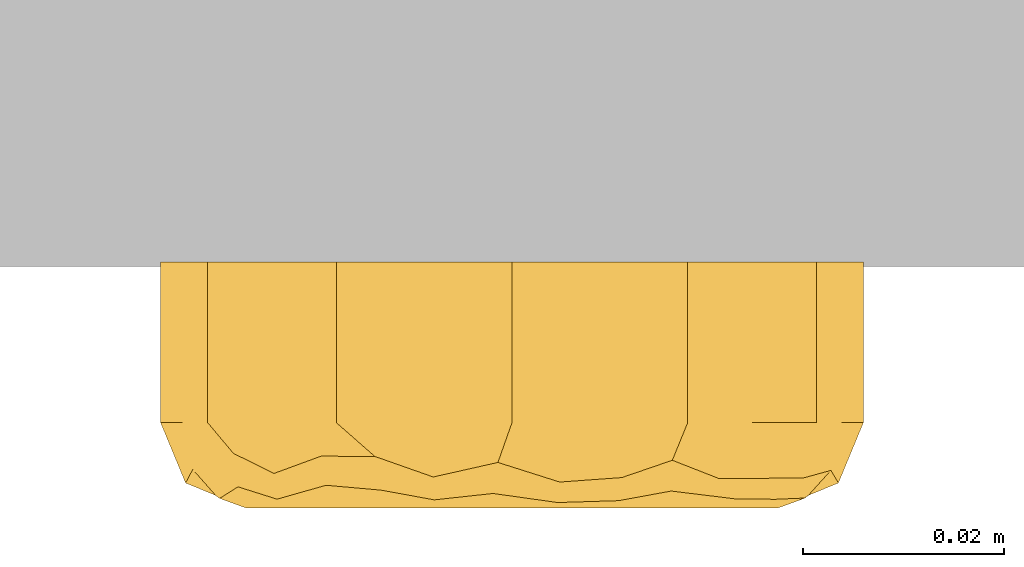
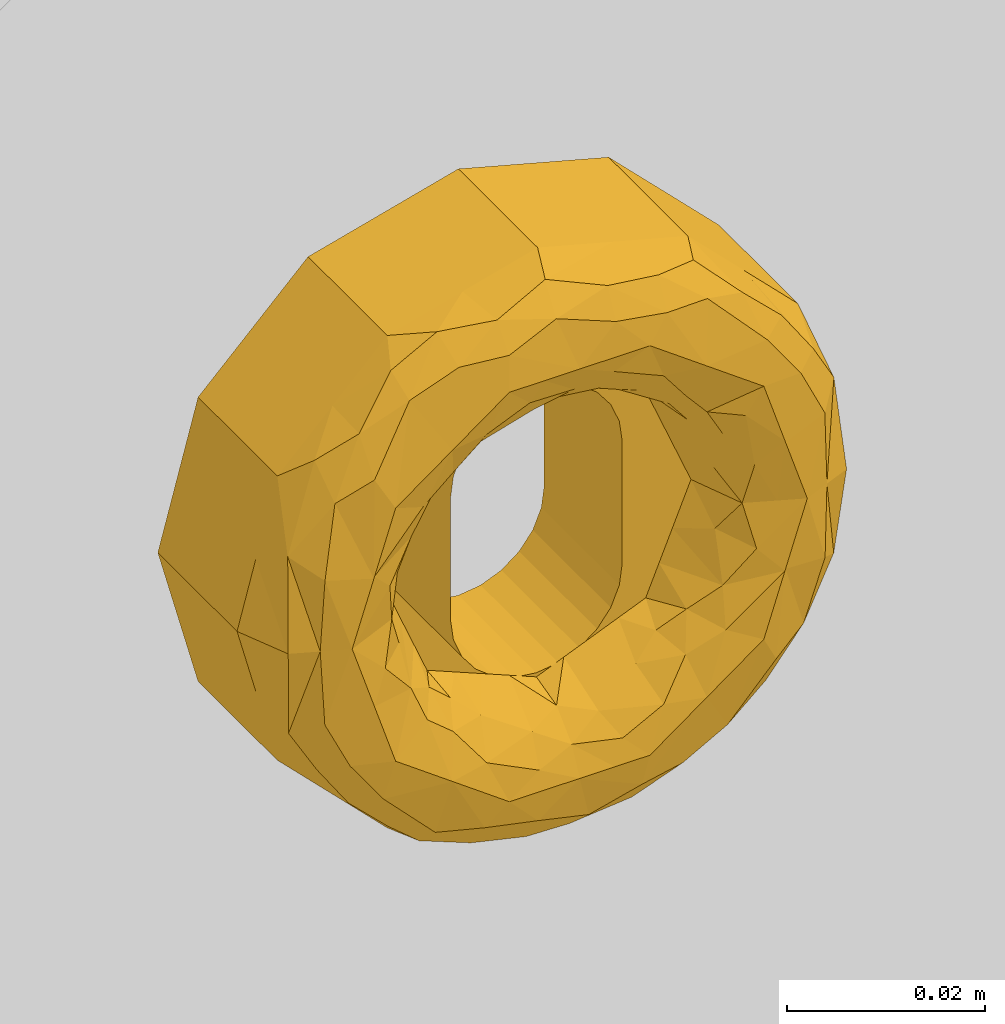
# One storey, part 2 of 2: 1 door.
"""IFC2X3 building model written with IfcOpenShell, lengths in feet."""

from ifc_helpers import new_model, entity, si_unit, converted_unit, derived_unit, direction, frame, origin, place, context, subcontext, project, spatial, face_set, surface_model, source, transform, mapped, type_object, type_shapes, element, save


model = new_model("IFC2X3")

# Units and contexts
model_context = context("Model", 3, precision=0.0001, world=origin(), true_north=direction((6.12303176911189e-17, 1.0)))
body_context = subcontext(model_context, "Body", "Model", "MODEL_VIEW")
ifc_project = project(units=[converted_unit("LENGTHUNIT", "FOOT", entity("IfcRatioMeasure", 0.3048), si_unit("LENGTHUNIT", "METRE"), dimensions=[1, 0, 0, 0, 0, 0, 0]), converted_unit("AREAUNIT", "SQUARE FOOT", entity("IfcRatioMeasure", 0.09290304), si_unit("AREAUNIT", "SQUARE_METRE"), dimensions=[2, 0, 0, 0, 0, 0, 0]), converted_unit("VOLUMEUNIT", "CUBIC FOOT", entity("IfcRatioMeasure", 0.028316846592), si_unit("VOLUMEUNIT", "CUBIC_METRE"), dimensions=[3, 0, 0, 0, 0, 0, 0]), converted_unit("PLANEANGLEUNIT", "DEGREE", entity("IfcRatioMeasure", 0.0174532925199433), si_unit("PLANEANGLEUNIT", "RADIAN"), dimensions=[0, 0, 0, 0, 0, 0, 0]), si_unit("MASSUNIT", "GRAM", prefix="KILO"), derived_unit("MASSDENSITYUNIT", [(si_unit("MASSUNIT", "GRAM", prefix="KILO"), 1), (si_unit("LENGTHUNIT", "METRE"), -3)]), si_unit("TIMEUNIT", "SECOND"), si_unit("FREQUENCYUNIT", "HERTZ"), si_unit("THERMODYNAMICTEMPERATUREUNIT", "DEGREE_CELSIUS"), derived_unit("THERMALTRANSMITTANCEUNIT", [(si_unit("MASSUNIT", "GRAM", prefix="KILO"), 1), (si_unit("THERMODYNAMICTEMPERATUREUNIT", "KELVIN"), -1), (si_unit("TIMEUNIT", "SECOND"), -3)]), derived_unit("VOLUMETRICFLOWRATEUNIT", [(si_unit("LENGTHUNIT", "METRE"), 3), (si_unit("TIMEUNIT", "SECOND"), -1)]), si_unit("ELECTRICCURRENTUNIT", "AMPERE"), si_unit("ELECTRICVOLTAGEUNIT", "VOLT"), si_unit("POWERUNIT", "WATT"), si_unit("FORCEUNIT", "NEWTON"), si_unit("ILLUMINANCEUNIT", "LUX"), si_unit("LUMINOUSFLUXUNIT", "LUMEN"), si_unit("LUMINOUSINTENSITYUNIT", "CANDELA"), derived_unit("USERDEFINED", [(si_unit("MASSUNIT", "GRAM", prefix="KILO"), -1), (si_unit("LENGTHUNIT", "METRE"), -2), (si_unit("TIMEUNIT", "SECOND"), 3), (si_unit("LUMINOUSFLUXUNIT", "LUMEN"), 1)]), derived_unit("LINEARVELOCITYUNIT", [(si_unit("LENGTHUNIT", "METRE"), 1), (si_unit("TIMEUNIT", "SECOND"), -1)]), si_unit("PRESSUREUNIT", "PASCAL"), derived_unit("USERDEFINED", [(si_unit("LENGTHUNIT", "METRE"), -2), (si_unit("MASSUNIT", "GRAM", prefix="KILO"), 1), (si_unit("TIMEUNIT", "SECOND"), -2)])], contexts=[model_context])

# Site, building, storey
site_placement = place(None, origin())
site = spatial("IfcSite", under=ifc_project, at=site_placement, Name="Default", CompositionType="ELEMENT")
building_placement = place(site_placement, origin())
building = spatial("IfcBuilding", under=site, at=building_placement, CompositionType="ELEMENT")
storey_placement = place(building_placement, origin())
storey = spatial("IfcBuildingStorey", under=building, at=storey_placement, Name="Level 1", CompositionType="ELEMENT", Elevation=0.0)

# Door
door_style = type_object("IfcDoorStyle", Name="dline_Hardware_TomDixonCollection_Escutcheons_Oval_Half_SnapOn_15.25", ConstructionType="NOTDEFINED", OperationType="DOUBLE_SWING_RIGHT", ParameterTakesPrecedence=False, Sizeable=False)
shared_shape = source(origin(), body_context, "Body", "SurfaceModel", [
    surface_model("IfcFaceBasedSurfaceModel", [(-0.114829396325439, 0.0, -0.00161922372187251), (-0.0994451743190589, 0.0574146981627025, -0.00161922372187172), (-0.0574146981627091, 0.0994451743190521, -0.00161922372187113), (0.0, 0.114829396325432, -0.00161922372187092), (0.0574146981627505, 0.099445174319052, -0.00161922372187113), (0.0994451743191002, 0.0574146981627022, -0.00161922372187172), (0.11482939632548, 0.0, -0.00161922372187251), (0.0328083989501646, 0.0, -0.00161922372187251), (0.0328083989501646, 0.0246062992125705, -0.00161922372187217), (0.0316904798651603, 0.0330977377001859, -0.00161922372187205), (0.0284129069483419, 0.0410104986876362, -0.00161922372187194), (0.0231990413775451, 0.0478053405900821, -0.00161922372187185), (0.0164041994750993, 0.0530192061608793, -0.00161922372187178), (0.00849143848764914, 0.056296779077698, -0.00161922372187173), (0.0, 0.0574146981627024, -0.00161922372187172), (-0.0084914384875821, 0.056296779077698, -0.00161922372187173), (-0.0164041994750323, 0.0530192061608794, -0.00161922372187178), (-0.0231990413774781, 0.0478053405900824, -0.00161922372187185), (-0.0284129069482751, 0.0410104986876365, -0.00161922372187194), (-0.0316904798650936, 0.0330977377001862, -0.00161922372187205), (-0.0328083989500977, 0.0246062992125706, -0.00161922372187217), (-0.0328083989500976, 0.0, -0.00161922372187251), (0.0994451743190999, -0.0574146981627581, -0.0016192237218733), (0.0574146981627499, -0.0994451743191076, -0.00161922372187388), (0.0, -0.114829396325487, -0.0016192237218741), (-0.0574146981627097, -0.099445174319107, -0.00161922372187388), (-0.0994451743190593, -0.0574146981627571, -0.0016192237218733), (-0.0328083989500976, -0.0246062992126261, -0.00161922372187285), (-0.0316904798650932, -0.0330977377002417, -0.00161922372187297), (-0.0284129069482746, -0.0410104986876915, -0.00161922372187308), (-0.0231990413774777, -0.0478053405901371, -0.00161922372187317), (-0.0164041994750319, -0.0530192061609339, -0.00161922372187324), (-0.00849143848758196, -0.0562967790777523, -0.00161922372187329), (0.0, -0.0574146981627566, -0.0016192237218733), (0.00849143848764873, -0.0562967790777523, -0.00161922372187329), (0.0164041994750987, -0.0530192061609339, -0.00161922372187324), (0.0231990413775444, -0.0478053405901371, -0.00161922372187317), (0.0284129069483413, -0.0410104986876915, -0.00161922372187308), (0.03169047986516, -0.0330977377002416, -0.00161922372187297), (0.0328083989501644, -0.0246062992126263, -0.00161922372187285), (0.106550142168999, 0.0308985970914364, 0.0508530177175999), (0.107137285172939, 0.0287073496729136, -0.0016192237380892), (-0.107137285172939, 0.0287073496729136, 0.0508530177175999), (-0.0994451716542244, 0.0574146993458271, 0.0508530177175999), (-0.107137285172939, 0.0287073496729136, -0.0016192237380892), (0.0784299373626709, 0.0784299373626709, 0.0508530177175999), (0.0994451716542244, 0.0574146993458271, 0.0508530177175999), (0.0784299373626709, 0.0784299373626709, -0.0016192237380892), (0.114829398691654, 0.0, 0.0508530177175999), (0.0574146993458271, 0.0994451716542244, 0.0508530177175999), (0.0287073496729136, 0.107137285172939, -0.0016192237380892), (0.0, 0.114829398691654, 0.0508530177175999), (0.0287073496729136, 0.107137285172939, 0.0508530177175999), (-0.0287073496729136, 0.107137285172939, 0.0508530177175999), (-0.0287073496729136, 0.107137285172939, -0.0016192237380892), (-0.0784299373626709, 0.0784299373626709, -0.0016192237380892), (-0.0784299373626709, 0.0784299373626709, 0.0508530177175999), (-0.0574146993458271, 0.0994451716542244, 0.0508530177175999), (-0.114829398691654, 0.0, 0.0508530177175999), (-0.106550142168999, -0.0308985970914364, 0.0508530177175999), (-0.107137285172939, -0.0287073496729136, -0.0016192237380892), (0.107137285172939, -0.0287073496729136, 0.0508530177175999), (0.0994451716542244, -0.0574146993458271, 0.0508530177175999), (0.107137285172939, -0.0287073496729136, -0.0016192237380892), (-0.0784299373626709, -0.0784299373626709, 0.0508530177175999), (-0.0994451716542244, -0.0574146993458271, 0.0508530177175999), (-0.0784299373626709, -0.0784299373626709, -0.0016192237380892), (-0.0574146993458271, -0.0994451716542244, 0.0508530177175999), (-0.0287073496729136, -0.107137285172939, -0.0016192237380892), (0.0, -0.114829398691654, 0.0508530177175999), (-0.0287073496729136, -0.107137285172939, 0.0508530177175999), (0.0287073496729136, -0.107137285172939, 0.0508530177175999), (0.0287073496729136, -0.107137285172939, -0.0016192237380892), (0.0784299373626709, -0.0784299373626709, -0.0016192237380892), (0.0784299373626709, -0.0784299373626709, 0.0508530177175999), (0.0574146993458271, -0.0994451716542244, 0.0508530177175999), (0.104185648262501, 0.0354321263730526, 0.0664708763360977), (0.10769384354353, 0.0266302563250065, 0.0508530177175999), (-0.00460470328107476, 0.111512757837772, 0.0638647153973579), (-0.0257417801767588, 0.105345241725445, 0.0686107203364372), (-0.00619756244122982, 0.102307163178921, 0.074000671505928), (0.0358880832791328, 0.102162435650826, 0.0688052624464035), (0.0155927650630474, 0.105819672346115, 0.0702666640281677), (0.095525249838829, 0.0295866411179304, 0.0754930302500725), (0.0948657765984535, 0.0518237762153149, 0.0690221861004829), (0.086100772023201, 0.0492820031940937, 0.0758982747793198), (-0.0607702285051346, 0.086708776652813, 0.0713200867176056), (-0.0427446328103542, 0.0948088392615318, 0.0729155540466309), (-0.0447977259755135, 0.103246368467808, 0.0619042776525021), (0.106661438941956, 0.0, 0.070572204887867), (0.0676873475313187, 0.0841498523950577, 0.0691424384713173), (0.0520024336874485, 0.0896197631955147, 0.0732076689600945), (0.0733057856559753, 0.0671199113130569, 0.0758067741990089), (0.0703377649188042, 0.051103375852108, 0.078740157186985), (0.0523817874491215, 0.0989614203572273, 0.0631542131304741), (0.0348720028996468, 0.0918425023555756, 0.0763491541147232), (-0.0623906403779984, 0.093721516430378, 0.0618042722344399), (0.0968018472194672, 0.0, 0.074656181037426), (0.0486022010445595, 0.0668951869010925, 0.078740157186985), (-0.104311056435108, 0.0357333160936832, 0.0661465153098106), (-0.0895434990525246, 0.0554412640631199, 0.0718302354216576), (-0.0910296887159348, 0.0668764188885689, 0.0609040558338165), (-0.0253979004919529, 0.0954931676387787, 0.0760875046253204), (-0.0486022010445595, 0.0668951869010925, 0.078740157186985), (-0.0777445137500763, 0.0769081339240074, 0.0674436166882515), (-0.0767557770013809, 0.0629682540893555, 0.0758626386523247), (-0.0955414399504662, 0.0286489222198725, 0.0756280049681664), (-0.0968018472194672, 0.0, 0.074656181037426), (-0.10769384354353, 0.0266302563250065, 0.0508530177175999), (-0.106661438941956, 0.0, 0.070572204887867), (0.0149465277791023, 0.0955802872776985, 0.0769616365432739), (-0.0786400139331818, 0.025551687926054, 0.078740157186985), (-0.0869422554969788, 0.0, 0.078740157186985), (0.0869422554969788, 0.0, 0.078740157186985), (0.0786400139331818, 0.025551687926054, 0.078740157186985), (0.0827525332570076, 0.069546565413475, 0.069024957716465), (0.0268666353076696, 0.0826869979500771, 0.078740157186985), (0.0, 0.0826869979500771, 0.078740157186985), (-0.0703377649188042, 0.051103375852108, 0.078740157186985), (-0.0268666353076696, 0.0826869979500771, 0.078740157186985), (-0.104185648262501, -0.0354321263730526, 0.0664708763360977), (-0.10769384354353, -0.0266302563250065, 0.0508530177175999), (0.0895434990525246, -0.0554412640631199, 0.0718302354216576), (0.0786400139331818, -0.025551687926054, 0.078740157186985), (0.0767557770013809, -0.0629682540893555, 0.0758626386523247), (0.10769384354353, -0.0266302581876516, 0.0508530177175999), (0.104311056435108, -0.0357333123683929, 0.0661465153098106), (-0.095525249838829, -0.0295866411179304, 0.0754930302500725), (-0.0948657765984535, -0.0518237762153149, 0.0690221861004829), (-0.086100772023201, -0.0492820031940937, 0.0758982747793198), (-0.0486022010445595, -0.0668951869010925, 0.078740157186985), (-0.0703377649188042, -0.051103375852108, 0.078740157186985), (-0.0733057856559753, -0.0671199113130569, 0.0758067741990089), (-0.0358880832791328, -0.102162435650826, 0.0688052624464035), (-0.0155927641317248, -0.105819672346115, 0.0702666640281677), (-0.0676873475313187, -0.0841498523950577, 0.0691424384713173), (-0.0520024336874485, -0.0896197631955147, 0.0732076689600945), (-0.0348720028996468, -0.0918425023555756, 0.0763491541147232), (0.00460470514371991, -0.111512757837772, 0.0638647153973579), (0.0910296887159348, -0.0668764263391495, 0.0609040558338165), (0.0607702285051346, -0.0867087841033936, 0.0713200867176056), (0.0447977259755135, -0.103246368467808, 0.0619042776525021), (0.0623906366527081, -0.093721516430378, 0.0618042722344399), (0.0427446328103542, -0.0948088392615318, 0.0729155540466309), (0.025397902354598, -0.0954931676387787, 0.0760875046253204), (0.0257417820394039, -0.105345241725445, 0.0686107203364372), (0.0777445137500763, -0.0769081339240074, 0.0674436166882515), (0.0955414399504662, -0.0286489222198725, 0.0756280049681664), (0.00619756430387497, -0.102307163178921, 0.074000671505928), (-0.0149465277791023, -0.0955802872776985, 0.0769616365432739), (0.0486022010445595, -0.0668951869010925, 0.078740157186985), (-0.0523817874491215, -0.0989614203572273, 0.0631542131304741), (-0.0786400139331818, -0.025551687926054, 0.078740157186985), (-0.0827525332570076, -0.069546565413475, 0.069024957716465), (-0.0268666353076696, -0.0826869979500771, 0.078740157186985), (0.0, -0.0826869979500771, 0.078740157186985), (0.0703377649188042, -0.051103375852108, 0.078740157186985), (0.0268666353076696, -0.0826869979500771, 0.078740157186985), (0.0595088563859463, 0.030643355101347, 0.0702800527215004), (0.0784134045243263, 0.0262491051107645, 0.078740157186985), (0.0484802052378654, 0.0383875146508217, 0.062996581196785), (0.044356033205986, 0.052351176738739, 0.0718726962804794), (0.0548929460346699, 0.0432777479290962, 0.0729278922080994), (-0.0606496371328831, 0.0123952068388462, 0.0631307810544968), (-0.0519581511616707, 0.0171627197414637, 0.0500328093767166), (-0.0590671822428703, 0.0, 0.0500328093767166), (0.0724360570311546, 0.0148040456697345, 0.0755200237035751), (0.06114686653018, 0.0148187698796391, 0.0650119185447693), (0.0669351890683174, 0.0, 0.0702800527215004), (0.0590671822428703, 0.0, 0.0500328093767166), (-0.0104417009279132, 0.0547420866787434, 0.0500328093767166), (-0.0208834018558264, 0.0504169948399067, 0.0500328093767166), (-0.0123898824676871, 0.0651603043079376, 0.0696342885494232), (0.0519581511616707, 0.0171627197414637, 0.0500328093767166), (0.0337963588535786, 0.0663290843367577, 0.0757820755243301), (-0.0784134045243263, 0.0262491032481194, 0.078740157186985), (-0.0578487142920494, 0.0450543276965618, 0.0751887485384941), (0.0468624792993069, 0.0294647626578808, 0.0500328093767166), (-0.0595088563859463, 0.030643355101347, 0.0702800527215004), (-0.0700549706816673, 0.0169776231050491, 0.0744515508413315), (-0.0337963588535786, 0.0663290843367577, 0.0757820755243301), (-0.029567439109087, 0.055287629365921, 0.0646325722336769), (-0.0669351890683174, 0.0, 0.0702800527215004), (-0.044356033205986, 0.052351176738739, 0.0718726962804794), (-0.0487650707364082, 0.039685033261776, 0.0649360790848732), (0.0417668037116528, 0.0417668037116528, 0.0500328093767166), (0.0394373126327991, 0.0467448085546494, 0.0614783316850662), (0.0143742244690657, 0.0754772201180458, 0.0768436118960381), (0.0208834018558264, 0.0504169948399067, 0.0500328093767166), (0.0104417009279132, 0.0547420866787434, 0.0500328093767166), (0.0129081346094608, 0.0648935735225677, 0.0694539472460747), (-0.0313251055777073, 0.0460918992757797, 0.0500328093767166), (-0.0390795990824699, 0.0469961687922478, 0.0613881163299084), (0.0295674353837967, 0.0552876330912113, 0.0646325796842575), (0.000194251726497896, 0.0621994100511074, 0.0637176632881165), (0.000380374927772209, 0.0715737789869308, 0.07412388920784), (-0.0134333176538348, 0.0826869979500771, 0.078740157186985), (-0.017739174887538, 0.0738889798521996, 0.0764988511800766), (0.0313251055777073, 0.0460918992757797, 0.0500328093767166), (-0.0417668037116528, 0.0417668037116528, 0.0500328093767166), (-0.0468624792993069, 0.0294647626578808, 0.0500328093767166), (0.0, 0.0590671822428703, 0.0500328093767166), (-0.0647844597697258, -0.0398912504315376, 0.076538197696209), (-0.0695305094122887, -0.0168505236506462, 0.0741030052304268), (-0.0784134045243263, -0.0262491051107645, 0.078740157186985), (-0.0295674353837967, -0.0552876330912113, 0.0646325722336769), (-0.0435471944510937, -0.0435946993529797, 0.0625323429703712), (-0.0313251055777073, -0.0460918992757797, 0.0500328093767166), (-0.0208834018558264, -0.0504169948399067, 0.0500328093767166), (-0.0104417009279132, -0.0547420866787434, 0.0500328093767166), (-0.0129081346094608, -0.0648935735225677, 0.0694539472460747), (-0.059508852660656, -0.0306433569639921, 0.0702800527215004), (-0.0530390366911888, -0.042167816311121, 0.0710938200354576), (-0.0417668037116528, -0.0417668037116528, 0.0500328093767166), (-0.0510150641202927, -0.0340855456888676, 0.061941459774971), (0.0606496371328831, -0.0123952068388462, 0.0631307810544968), (0.0519581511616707, -0.0171627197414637, 0.0500328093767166), (-0.0743755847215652, -0.0386762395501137, 0.078740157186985), (-0.0443560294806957, -0.0523511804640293, 0.0718726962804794), (-0.0337963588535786, -0.0663290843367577, 0.0757820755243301), (0.0337963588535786, -0.0663290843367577, 0.0757820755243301), (0.044356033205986, -0.052351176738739, 0.0718726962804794), (0.0784134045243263, -0.0262491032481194, 0.078740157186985), (0.0578487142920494, -0.0450543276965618, 0.0751887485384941), (0.0595088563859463, -0.030643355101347, 0.0702800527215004), (0.0700549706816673, -0.0169776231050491, 0.0744515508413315), (-0.060554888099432, -0.0119150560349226, 0.0627411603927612), (0.0123898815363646, -0.0651603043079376, 0.0696342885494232), (0.0295674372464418, -0.055287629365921, 0.0646325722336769), (-0.077693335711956, 0.0, 0.0748291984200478), (0.0487650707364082, -0.039685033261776, 0.0649360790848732), (-0.0143742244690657, -0.0754772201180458, 0.0768436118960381), (0.0104417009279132, -0.0547420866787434, 0.0500328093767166), (0.0208834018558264, -0.0504169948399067, 0.0500328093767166), (0.0313251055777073, -0.0460918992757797, 0.0500328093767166), (0.0390795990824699, -0.0469961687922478, 0.0613881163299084), (-0.000194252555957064, -0.0621994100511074, 0.0637176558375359), (-0.000380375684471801, -0.0715737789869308, 0.07412388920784), (0.0134333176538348, -0.0826869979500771, 0.078740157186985), (0.017739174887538, -0.0738889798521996, 0.0764988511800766), (-0.0519581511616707, -0.0171627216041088, 0.0500328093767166), (-0.0468624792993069, -0.0294647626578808, 0.0500328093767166), (0.0417668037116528, -0.0417668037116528, 0.0500328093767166), (0.0468624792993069, -0.0294647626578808, 0.0500328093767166), (0.0, -0.0590671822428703, 0.0500328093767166), (-0.0328083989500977, 0.0, 0.0500328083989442), (-0.0328083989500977, 0.0246062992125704, 0.0500328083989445), (-0.0316904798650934, 0.0330977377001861, 0.0500328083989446), (-0.0284129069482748, 0.0410104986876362, 0.0500328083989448), (-0.0231990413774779, 0.0478053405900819, 0.0500328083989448), (-0.0164041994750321, 0.0530192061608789, 0.0500328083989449), (-0.00849143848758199, 0.0562967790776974, 0.050032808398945), (0.0, 0.0574146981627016, 0.050032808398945), (0.008491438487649, 0.0562967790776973, 0.050032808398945), (0.0164041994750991, 0.0530192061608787, 0.0500328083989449), (0.0231990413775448, 0.0478053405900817, 0.0500328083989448), (0.0284129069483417, 0.0410104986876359, 0.0500328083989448), (0.0316904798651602, 0.0330977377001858, 0.0500328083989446), (0.0328083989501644, 0.0246062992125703, 0.0500328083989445), (0.0328083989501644, 0.0, 0.0500328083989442), (0.0328083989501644, -0.0246062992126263, 0.0500328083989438), (0.0316904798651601, -0.0330977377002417, 0.0500328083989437), (0.0284129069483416, -0.0410104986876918, 0.0500328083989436), (0.0231990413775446, -0.0478053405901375, 0.0500328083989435), (0.0164041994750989, -0.0530192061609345, 0.0500328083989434), (0.00849143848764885, -0.056296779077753, 0.0500328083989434), (0.0, -0.0574146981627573, 0.0500328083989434), (-0.00849143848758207, -0.056296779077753, 0.0500328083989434), (-0.0164041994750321, -0.0530192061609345, 0.0500328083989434), (-0.0231990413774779, -0.0478053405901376, 0.0500328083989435), (-0.0284129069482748, -0.0410104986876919, 0.0500328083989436), (-0.0316904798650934, -0.0330977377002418, 0.0500328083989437), (-0.0328083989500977, -0.0246062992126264, 0.0500328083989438)], [face_set([[[0, 1, 2, 3, 4, 5, 6, 7, 8, 9, 10, 11, 12, 13, 14, 15, 16, 17, 18, 19, 20, 21]], [[6, 22, 23, 24, 25, 26, 0, 21, 27, 28, 29, 30, 31, 32, 33, 34, 35, 36, 37, 38, 39, 7]], [[5, 40, 41]], [[42, 43, 1, 44]], [[45, 46, 5, 47]], [[41, 48, 6]], [[48, 41, 40]], [[49, 45, 47, 4]], [[50, 3, 51, 52]], [[5, 46, 40]], [[4, 50, 52, 49]], [[53, 51, 3, 54]], [[55, 1, 43, 56]], [[2, 55, 56, 57]], [[44, 0, 58, 42]], [[54, 2, 57, 53]], [[26, 59, 60]], [[61, 62, 22, 63]], [[64, 65, 26, 66]], [[60, 58, 0]], [[58, 60, 59]], [[67, 64, 66, 25]], [[68, 24, 69, 70]], [[26, 65, 59]], [[25, 68, 70, 67]], [[71, 69, 24, 72]], [[73, 22, 62, 74]], [[23, 73, 74, 75]], [[63, 6, 48, 61]], [[72, 23, 75, 71]], [[46, 76, 77]], [[78, 79, 80]], [[81, 52, 82]], [[83, 84, 85]], [[86, 87, 88]], [[76, 89, 77]], [[90, 91, 92]], [[76, 84, 83]], [[85, 92, 93]], [[94, 91, 90]], [[91, 81, 95]], [[78, 53, 79]], [[78, 82, 52]], [[89, 48, 77]], [[88, 96, 86]], [[83, 97, 76]], [[98, 93, 92]], [[99, 100, 101]], [[84, 46, 45]], [[87, 102, 79]], [[102, 87, 103]], [[104, 105, 86]], [[106, 99, 107]], [[49, 90, 45]], [[108, 109, 99]], [[82, 110, 95]], [[100, 111, 105]], [[43, 101, 56]], [[99, 43, 108]], [[108, 58, 109]], [[107, 112, 106]], [[97, 83, 113]], [[97, 89, 76]], [[46, 84, 76]], [[85, 93, 114]], [[114, 113, 83]], [[85, 84, 115]], [[85, 115, 92]], [[83, 85, 114]], [[90, 92, 115]], [[98, 92, 91]], [[90, 115, 45]], [[94, 90, 49]], [[51, 78, 52]], [[81, 91, 94]], [[94, 49, 52]], [[52, 81, 94]], [[95, 98, 91]], [[110, 82, 80]], [[82, 95, 81]], [[98, 95, 116]], [[102, 117, 80]], [[116, 95, 110]], [[117, 116, 110]], [[102, 80, 79]], [[117, 110, 80]], [[82, 78, 80]], [[57, 88, 53]], [[86, 118, 103]], [[117, 102, 119]], [[87, 79, 88]], [[119, 102, 103]], [[103, 87, 86]], [[78, 51, 53]], [[53, 88, 79]], [[88, 57, 96]], [[101, 100, 104]], [[104, 86, 96]], [[96, 57, 56]], [[56, 104, 96]], [[105, 104, 100]], [[56, 101, 104]], [[99, 101, 43]], [[84, 45, 115]], [[86, 105, 118]], [[100, 106, 111]], [[111, 118, 105]], [[99, 109, 107]], [[111, 106, 112]], [[99, 106, 100]], [[65, 120, 121]], [[122, 123, 124]], [[125, 89, 126]], [[127, 128, 129]], [[130, 131, 132]], [[120, 109, 121]], [[133, 70, 134]], [[120, 128, 127]], [[129, 132, 131]], [[135, 136, 132]], [[136, 133, 137]], [[128, 65, 64]], [[138, 134, 70]], [[127, 107, 120]], [[126, 122, 139]], [[109, 58, 121]], [[62, 139, 74]], [[140, 141, 142]], [[67, 135, 64]], [[143, 144, 145]], [[138, 71, 145]], [[146, 124, 140]], [[147, 126, 97]], [[138, 145, 148]], [[140, 143, 141]], [[134, 149, 137]], [[144, 143, 150]], [[151, 136, 135]], [[126, 62, 125]], [[125, 48, 89]], [[97, 113, 147]], [[107, 127, 112]], [[107, 109, 120]], [[65, 128, 120]], [[129, 131, 152]], [[152, 112, 127]], [[129, 128, 153]], [[129, 153, 132]], [[127, 129, 152]], [[135, 132, 153]], [[130, 132, 136]], [[135, 153, 64]], [[151, 135, 67]], [[69, 138, 70]], [[133, 136, 151]], [[151, 67, 70]], [[70, 133, 151]], [[137, 130, 136]], [[149, 134, 148]], [[134, 137, 133]], [[130, 137, 154]], [[144, 155, 148]], [[154, 137, 149]], [[155, 154, 149]], [[144, 148, 145]], [[155, 149, 148]], [[134, 138, 148]], [[75, 141, 71]], [[140, 156, 150]], [[155, 144, 157]], [[143, 145, 141]], [[157, 144, 150]], [[150, 143, 140]], [[138, 69, 71]], [[71, 141, 145]], [[141, 75, 142]], [[139, 122, 146]], [[146, 140, 142]], [[142, 75, 74]], [[74, 146, 142]], [[124, 146, 122]], [[74, 139, 146]], [[126, 139, 62]], [[128, 64, 153]], [[140, 124, 156]], [[122, 147, 123]], [[123, 156, 124]], [[126, 89, 97]], [[123, 147, 113]], [[126, 147, 122]], [[158, 93, 159]], [[160, 161, 162]], [[158, 160, 162]], [[163, 164, 165]], [[158, 166, 167]], [[168, 169, 167]], [[170, 171, 172]], [[173, 158, 167]], [[161, 98, 174]], [[161, 98, 162]], [[118, 175, 176]], [[158, 177, 160]], [[178, 164, 163]], [[179, 178, 163]], [[175, 176, 178]], [[180, 172, 181]], [[112, 182, 179]], [[183, 184, 176]], [[179, 178, 175]], [[113, 159, 166]], [[185, 186, 160]], [[187, 174, 116]], [[180, 103, 183]], [[188, 189, 190]], [[181, 191, 192]], [[161, 193, 174]], [[194, 172, 195]], [[180, 119, 103]], [[194, 170, 172]], [[187, 117, 195]], [[196, 197, 195]], [[174, 98, 116]], [[193, 188, 190]], [[174, 193, 190]], [[186, 198, 193]], [[183, 180, 181]], [[118, 176, 103]], [[197, 172, 180]], [[184, 183, 192]], [[185, 160, 177]], [[158, 173, 177]], [[161, 160, 186]], [[158, 93, 162]], [[98, 162, 93]], [[186, 193, 161]], [[173, 167, 169]], [[188, 193, 198]], [[186, 185, 198]], [[168, 167, 166]], [[113, 166, 168]], [[158, 166, 159]], [[112, 179, 175]], [[182, 179, 163]], [[182, 163, 165]], [[199, 200, 184]], [[200, 164, 178]], [[178, 176, 184]], [[183, 176, 103]], [[178, 184, 200]], [[199, 184, 192]], [[181, 171, 191]], [[192, 183, 181]], [[191, 199, 192]], [[190, 189, 194]], [[201, 194, 189]], [[190, 194, 195]], [[190, 195, 187]], [[195, 117, 196]], [[197, 196, 119]], [[180, 197, 119]], [[172, 197, 195]], [[190, 187, 174]], [[117, 187, 116]], [[181, 172, 171]], [[170, 194, 201]], [[202, 203, 204]], [[205, 206, 207]], [[208, 209, 210]], [[211, 212, 202]], [[211, 202, 203]], [[213, 206, 214]], [[215, 216, 169]], [[202, 204, 217]], [[218, 130, 219]], [[220, 150, 221]], [[156, 222, 223]], [[130, 131, 218]], [[224, 216, 215]], [[225, 224, 215]], [[203, 182, 226]], [[220, 227, 228]], [[229, 112, 204]], [[221, 230, 223]], [[225, 224, 222]], [[226, 182, 165]], [[113, 168, 225]], [[231, 219, 154]], [[232, 233, 227]], [[222, 223, 224]], [[228, 234, 235]], [[218, 205, 219]], [[236, 227, 237]], [[220, 157, 150]], [[236, 232, 227]], [[231, 155, 237]], [[238, 239, 237]], [[219, 130, 154]], [[205, 208, 210]], [[219, 205, 210]], [[206, 213, 207]], [[221, 220, 228]], [[156, 223, 150]], [[239, 227, 220]], [[230, 221, 235]], [[207, 208, 205]], [[204, 203, 229]], [[182, 229, 203]], [[240, 211, 226]], [[203, 226, 211]], [[240, 226, 165]], [[131, 212, 202]], [[218, 212, 131]], [[217, 131, 202]], [[211, 214, 212]], [[212, 206, 218]], [[218, 206, 205]], [[240, 214, 211]], [[241, 213, 214]], [[212, 214, 206]], [[241, 214, 240]], [[113, 225, 222]], [[168, 225, 215]], [[168, 215, 169]], [[242, 243, 230]], [[243, 216, 224]], [[224, 223, 230]], [[221, 223, 150]], [[224, 230, 243]], [[242, 230, 235]], [[228, 233, 234]], [[235, 221, 228]], [[234, 242, 235]], [[210, 209, 236]], [[244, 236, 209]], [[210, 236, 237]], [[210, 237, 231]], [[237, 155, 238]], [[239, 238, 157]], [[220, 239, 157]], [[227, 239, 237]], [[210, 231, 219]], [[155, 231, 154]], [[228, 227, 233]], [[232, 236, 244]], [[169, 185, 201, 199, 165, 245, 246, 247, 248, 249, 250, 251, 252, 253, 254, 255, 256, 257, 258, 259]], [[165, 213, 244, 242, 169, 259, 260, 261, 262, 263, 264, 265, 266, 267, 268, 269, 270, 271, 272, 245]], [[258, 259, 260, 39, 7, 8]], [[39, 260, 261, 38]], [[38, 261, 262, 37]], [[36, 263, 264, 35]], [[37, 262, 263, 36]], [[35, 264, 265, 34]], [[266, 33, 34, 265]], [[33, 266, 267, 32]], [[32, 267, 268, 31]], [[30, 269, 270, 29]], [[31, 268, 269, 30]], [[29, 270, 271, 28]], [[272, 27, 28, 271]], [[272, 245, 246, 20, 21, 27]], [[20, 246, 247, 19]], [[19, 247, 248, 18]], [[17, 249, 250, 16]], [[18, 248, 249, 17]], [[16, 250, 251, 15]], [[252, 14, 15, 251]], [[14, 252, 253, 13]], [[13, 253, 254, 12]], [[11, 255, 256, 10]], [[12, 254, 255, 11]], [[10, 256, 257, 9]], [[258, 8, 9, 257]]])]),
])
type_shapes(door_style, [shared_shape])
door_placement = place(storey_placement, frame((-5.52702638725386, 5.7109998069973, 3.18468768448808), z_axis=(0.0, -1.0, 0.0), x_axis=(-1.0, 0.0, 0.0)))
element("IfcDoor", 1, at=door_placement, inside=storey, type_object=door_style, Name="12.9002.02.180:dline_Hardware_TomDixonCollection_Escutcheons_Oval_Half_SnapOn_15.25", ObjectType="12.9002.02.180:dline_Hardware_TomDixonCollection_Escutcheons_Oval_Half_SnapOn_15.25", OverallHeight=0.442071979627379, OverallWidth=0.442913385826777, context=body_context, shape_type="MappedRepresentation", body=[
    mapped(shared_shape, transform((0.0, 0.0, 0.0), scale=1.0)),
])

save(model, "model.ifc")
